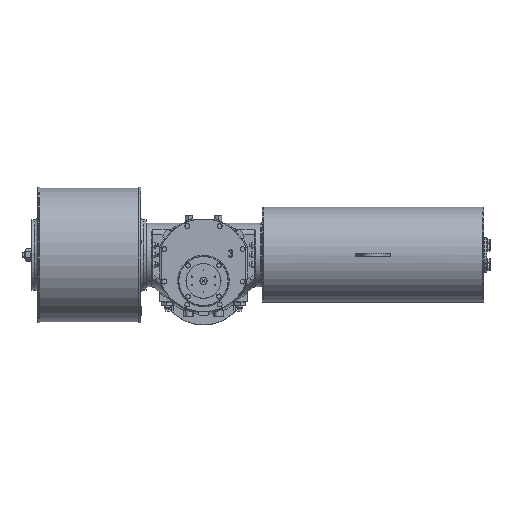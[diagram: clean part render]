
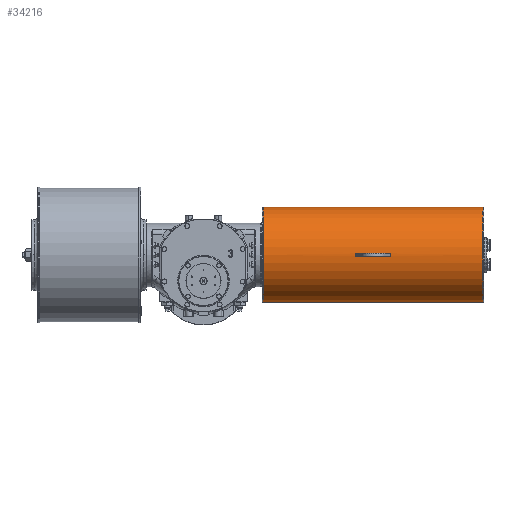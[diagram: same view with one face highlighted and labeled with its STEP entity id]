
A CAD part, top view. The second image highlights one B-rep face of the part: STEP entity #34216.
In plain terms, the highlighted cylindrical face has radius 162.5 mm (diameter 325 mm), a partial arc.
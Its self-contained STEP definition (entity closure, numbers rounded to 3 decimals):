
#26 = EDGE_LOOP ( 'NONE', ( #21458, #39925, #75868, #49805, #10252, #67118 ) ) ;
#872 = VERTEX_POINT ( 'NONE', #36222 ) ;
#1262 = VECTOR ( 'NONE', #51923, 1000. ) ;
#2295 = DIRECTION ( 'NONE',  ( 0., -1., 0. ) ) ;
#6489 = DIRECTION ( 'NONE',  ( -1., 0., 0. ) ) ;
#7288 = VERTEX_POINT ( 'NONE', #75280 ) ;
#7654 = DIRECTION ( 'NONE',  ( 0., 1., 0. ) ) ;
#7904 = EDGE_CURVE ( 'NONE', #18512, #58910, #64375, .T. ) ;
#8442 = DIRECTION ( 'NONE',  ( 0., 1., 0. ) ) ;
#8908 = EDGE_CURVE ( 'NONE', #872, #7288, #33228, .T. ) ;
#10252 = ORIENTED_EDGE ( 'NONE', *, *, #28052, .T. ) ;
#11624 = CARTESIAN_POINT ( 'NONE',  ( 954., -127., 74.5 ) ) ;
#11911 = CARTESIAN_POINT ( 'NONE',  ( 639.5, 35.5, 237. ) ) ;
#12299 = DIRECTION ( 'NONE',  ( 0., 1., 0. ) ) ;
#12333 = VECTOR ( 'NONE', #41367, 1000. ) ;
#13620 = ORIENTED_EDGE ( 'NONE', *, *, #55863, .T. ) ;
#14068 = VERTEX_POINT ( 'NONE', #11624 ) ;
#15836 = EDGE_CURVE ( 'NONE', #14068, #7288, #70451, .T. ) ;
#16569 = VERTEX_POINT ( 'NONE', #48613 ) ;
#16767 = DIRECTION ( 'NONE',  ( -1., 0., 0. ) ) ;
#17283 = VERTEX_POINT ( 'NONE', #17911 ) ;
#17911 = CARTESIAN_POINT ( 'NONE',  ( 519.5, 40.5, 236.923 ) ) ;
#18512 = VERTEX_POINT ( 'NONE', #70204 ) ;
#18659 = CIRCLE ( 'NONE', #55934, 162.5 ) ;
#21458 = ORIENTED_EDGE ( 'NONE', *, *, #7904, .F. ) ;
#21462 = VERTEX_POINT ( 'NONE', #67972 ) ;
#22099 = CARTESIAN_POINT ( 'NONE',  ( 208., -127., 74.5 ) ) ;
#22413 = CIRCLE ( 'NONE', #57225, 162.5 ) ;
#22566 = EDGE_CURVE ( 'NONE', #17283, #21462, #34145, .T. ) ;
#25267 = EDGE_LOOP ( 'NONE', ( #13620, #71462, #38349, #68847 ) ) ;
#27063 = EDGE_CURVE ( 'NONE', #35319, #17283, #48545, .T. ) ;
#28052 = EDGE_CURVE ( 'NONE', #21462, #32445, #18659, .T. ) ;
#28262 = EDGE_CURVE ( 'NONE', #32445, #58910, #31018, .T. ) ;
#28315 = EDGE_CURVE ( 'NONE', #16569, #14068, #34931, .T. ) ;
#28498 = AXIS2_PLACEMENT_3D ( 'NONE', #76767, #16767, #69745 ) ;
#29389 = DIRECTION ( 'NONE',  ( 1., 0., 0. ) ) ;
#30322 = DIRECTION ( 'NONE',  ( 0., -1., 0. ) ) ;
#31018 = CIRCLE ( 'NONE', #43476, 162.5 ) ;
#31095 = CARTESIAN_POINT ( 'NONE',  ( 639.5, 35.5, 74.5 ) ) ;
#32445 = VERTEX_POINT ( 'NONE', #11911 ) ;
#33228 = LINE ( 'NONE', #57391, #1262 ) ;
#34145 = LINE ( 'NONE', #57911, #76968 ) ;
#34216 = ADVANCED_FACE ( 'NONE', ( #64875, #76197 ), #59012, .T. ) ;
#34873 = AXIS2_PLACEMENT_3D ( 'NONE', #73844, #55902, #50057 ) ;
#34931 = LINE ( 'NONE', #22099, #37264 ) ;
#35319 = VERTEX_POINT ( 'NONE', #37585 ) ;
#36222 = CARTESIAN_POINT ( 'NONE',  ( 205., 198., 74.5 ) ) ;
#37264 = VECTOR ( 'NONE', #69621, 1000. ) ;
#37585 = CARTESIAN_POINT ( 'NONE',  ( 519.5, 35.5, 237. ) ) ;
#38096 = AXIS2_PLACEMENT_3D ( 'NONE', #66425, #6489, #7654 ) ;
#38349 = ORIENTED_EDGE ( 'NONE', *, *, #15836, .T. ) ;
#38488 = DIRECTION ( 'NONE',  ( 1., 0., 0. ) ) ;
#38499 = EDGE_CURVE ( 'NONE', #18512, #35319, #57156, .T. ) ;
#39925 = ORIENTED_EDGE ( 'NONE', *, *, #38499, .T. ) ;
#40990 = CARTESIAN_POINT ( 'NONE',  ( 208., 30.5, 236.923 ) ) ;
#41367 = DIRECTION ( 'NONE',  ( 1., 0., 0. ) ) ;
#43476 = AXIS2_PLACEMENT_3D ( 'NONE', #55612, #38488, #2295 ) ;
#46603 = DIRECTION ( 'NONE',  ( 1., 0., 0. ) ) ;
#48545 = CIRCLE ( 'NONE', #34873, 162.5 ) ;
#48613 = CARTESIAN_POINT ( 'NONE',  ( 205., -127., 74.5 ) ) ;
#49805 = ORIENTED_EDGE ( 'NONE', *, *, #22566, .T. ) ;
#50057 = DIRECTION ( 'NONE',  ( 0., 1., 0. ) ) ;
#51214 = DIRECTION ( 'NONE',  ( 1., 0., 0. ) ) ;
#51923 = DIRECTION ( 'NONE',  ( 1., 0., 0. ) ) ;
#52787 = CARTESIAN_POINT ( 'NONE',  ( 208., 35.5, 74.5 ) ) ;
#54857 = DIRECTION ( 'NONE',  ( 1., 0., 0. ) ) ;
#55612 = CARTESIAN_POINT ( 'NONE',  ( 639.5, 35.5, 74.5 ) ) ;
#55863 = EDGE_CURVE ( 'NONE', #872, #16569, #22413, .T. ) ;
#55902 = DIRECTION ( 'NONE',  ( -1., 0., 0. ) ) ;
#55934 = AXIS2_PLACEMENT_3D ( 'NONE', #31095, #54857, #30322 ) ;
#57156 = CIRCLE ( 'NONE', #28498, 162.5 ) ;
#57225 = AXIS2_PLACEMENT_3D ( 'NONE', #61753, #51214, #8442 ) ;
#57391 = CARTESIAN_POINT ( 'NONE',  ( 208., 198., 74.5 ) ) ;
#57911 = CARTESIAN_POINT ( 'NONE',  ( 208., 40.5, 236.923 ) ) ;
#58910 = VERTEX_POINT ( 'NONE', #65782 ) ;
#59012 = CYLINDRICAL_SURFACE ( 'NONE', #66845, 162.5 ) ;
#61753 = CARTESIAN_POINT ( 'NONE',  ( 205., 35.5, 74.5 ) ) ;
#64375 = LINE ( 'NONE', #40990, #12333 ) ;
#64875 = FACE_BOUND ( 'NONE', #26, .T. ) ;
#65782 = CARTESIAN_POINT ( 'NONE',  ( 639.5, 30.5, 236.923 ) ) ;
#66425 = CARTESIAN_POINT ( 'NONE',  ( 954., 35.5, 74.5 ) ) ;
#66845 = AXIS2_PLACEMENT_3D ( 'NONE', #52787, #29389, #12299 ) ;
#67118 = ORIENTED_EDGE ( 'NONE', *, *, #28262, .T. ) ;
#67972 = CARTESIAN_POINT ( 'NONE',  ( 639.5, 40.5, 236.923 ) ) ;
#68847 = ORIENTED_EDGE ( 'NONE', *, *, #8908, .F. ) ;
#69621 = DIRECTION ( 'NONE',  ( 1., 0., 0. ) ) ;
#69745 = DIRECTION ( 'NONE',  ( 0., 1., 0. ) ) ;
#70204 = CARTESIAN_POINT ( 'NONE',  ( 519.5, 30.5, 236.923 ) ) ;
#70451 = CIRCLE ( 'NONE', #38096, 162.5 ) ;
#71462 = ORIENTED_EDGE ( 'NONE', *, *, #28315, .T. ) ;
#73844 = CARTESIAN_POINT ( 'NONE',  ( 519.5, 35.5, 74.5 ) ) ;
#75280 = CARTESIAN_POINT ( 'NONE',  ( 954., 198., 74.5 ) ) ;
#75868 = ORIENTED_EDGE ( 'NONE', *, *, #27063, .T. ) ;
#76197 = FACE_OUTER_BOUND ( 'NONE', #25267, .T. ) ;
#76767 = CARTESIAN_POINT ( 'NONE',  ( 519.5, 35.5, 74.5 ) ) ;
#76968 = VECTOR ( 'NONE', #46603, 1000. ) ;
